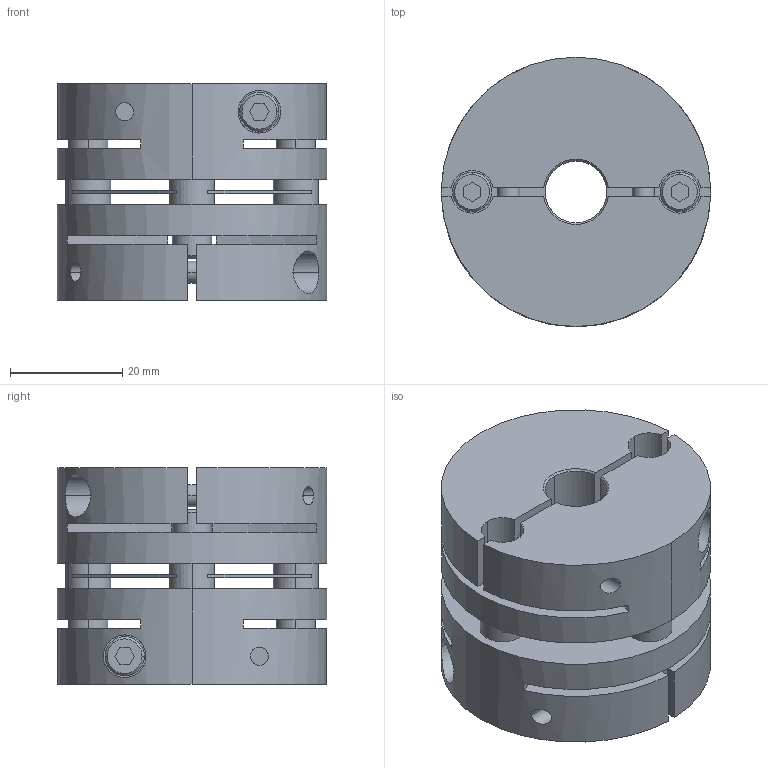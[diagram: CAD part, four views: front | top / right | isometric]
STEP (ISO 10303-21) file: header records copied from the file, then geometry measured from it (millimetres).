
FILE_DESCRIPTION((''),'2;1');
FILE_NAME('LAS-48C-11×12.stp','2015-10-14T15:37:25',(''),(''),'AutoCAD STEP 2000i','AutoCAD 2000i',', , ');
FILE_SCHEMA(('CONFIG_CONTROL_DESIGN'));
Length unit declared in the file: millimetre
Products named in the file (5): LAS-48C-12×12; 忣兜1; LA-4802-D12-1; LA-4802-D12; LAS48-ITA
Assembly tree (4 placements, depth 2):
  LAS-48C-12×12
    忣兜1
    LA-4802-D12-1
    LA-4802-D12
    LAS48-ITA
Bounding box: 48 x 48 x 38.6 mm (x, y, z)
Volume: 52022.7 mm3; surface area: 22766.1 mm2
Topology: 1 solids, 1 shells, 224 faces, 588 edges, 384 vertices
Faces by surface type: plane 112, cylinder 84, cone 28
Entity records: 7607 total; most frequent: CARTESIAN_POINT 1713, DIRECTION 1250, ORIENTED_EDGE 1176, EDGE_CURVE 588, AXIS2_PLACEMENT_3D 457, VERTEX_POINT 384, VECTOR 336, LINE 336
